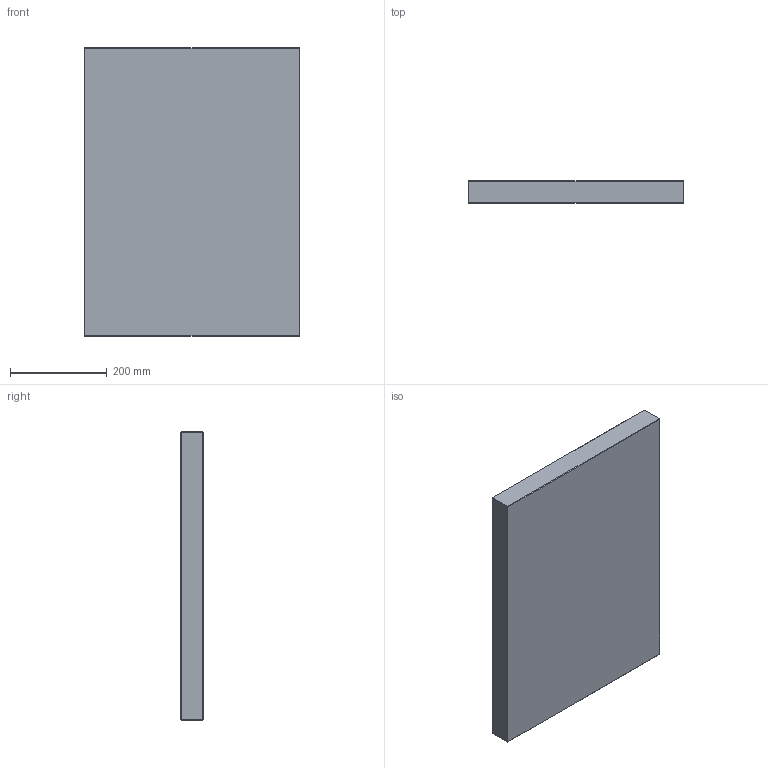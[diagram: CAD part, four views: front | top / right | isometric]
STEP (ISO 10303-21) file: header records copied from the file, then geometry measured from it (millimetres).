
FILE_DESCRIPTION (( 'STEP AP214' ), '1' );
FILE_NAME ('PBAV-P-446x446x46.STEP', '2020-03-25T16:46:13', ( 'August' ), ( '' ), 'SwSTEP 2.0', 'SolidWorks 2018', '' );
FILE_SCHEMA (( 'AUTOMOTIVE_DESIGN' ));
Length unit declared in the file: millimetre
Products named in the file (1): PBAV-P-446x446x46
Bounding box: 446 x 46 x 596 mm (x, y, z)
Volume: 12225365.3 mm3; surface area: 624943.6 mm2
Topology: 1 solids, 1 shells, 26 faces, 48 edges, 24 vertices
Faces by surface type: plane 26
Entity records: 634 total; most frequent: DIRECTION 102, CARTESIAN_POINT 99, ORIENTED_EDGE 96, VECTOR 48, LINE 48, EDGE_CURVE 48, AXIS2_PLACEMENT_3D 27, PLANE 26
